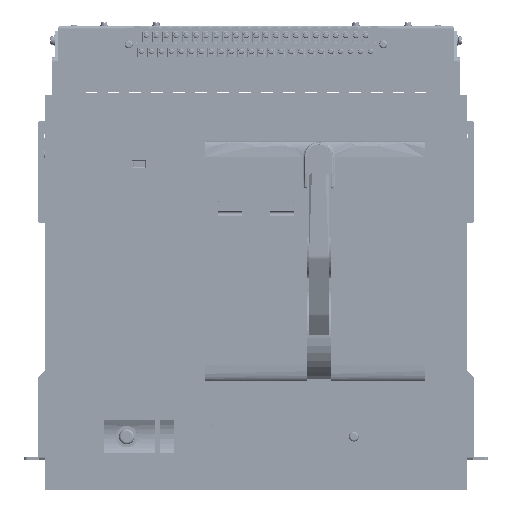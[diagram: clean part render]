
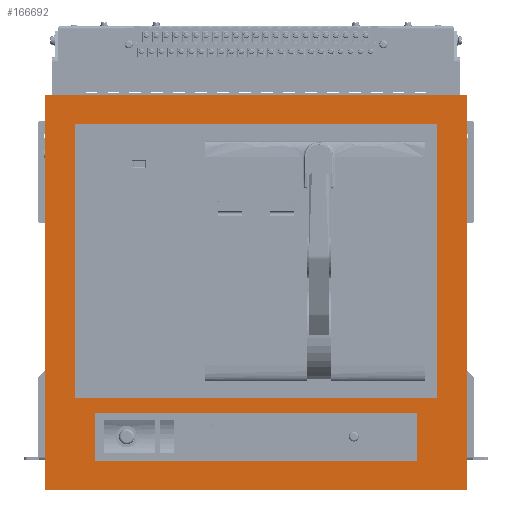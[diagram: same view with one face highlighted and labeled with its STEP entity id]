
A CAD part, top view. The second image highlights one B-rep face of the part: STEP entity #166692.
In plain terms, the highlighted planar face has unit normal (0, 0, 1) as drawn and (0, 1, 0) by its records, which use the part's own axes.
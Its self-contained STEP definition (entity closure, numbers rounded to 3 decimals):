
#15 = CARTESIAN_POINT ( 'NONE',  ( 212., 11., 198. ) ) ;
#3018 = VERTEX_POINT ( 'NONE', #242005 ) ;
#4085 = CARTESIAN_POINT ( 'NONE',  ( -161.5, 11., 121. ) ) ;
#5153 = VECTOR ( 'NONE', #219311, 1000. ) ;
#15291 = DIRECTION ( 'NONE',  ( 0., 0., -1. ) ) ;
#19524 = LINE ( 'NONE', #42744, #159594 ) ;
#20520 = EDGE_LOOP ( 'NONE', ( #106904, #253186, #191448, #289073 ) ) ;
#24944 = CARTESIAN_POINT ( 'NONE',  ( 161.5, 11., 121. ) ) ;
#26710 = CARTESIAN_POINT ( 'NONE',  ( 0., 11., 0. ) ) ;
#36016 = EDGE_CURVE ( 'NONE', #42011, #258225, #266100, .T. ) ;
#38993 = LINE ( 'NONE', #121889, #349923 ) ;
#39376 = DIRECTION ( 'NONE',  ( -1., 0., 0. ) ) ;
#40762 = CARTESIAN_POINT ( 'NONE',  ( -182., 11., -169. ) ) ;
#42011 = VERTEX_POINT ( 'NONE', #326163 ) ;
#42744 = CARTESIAN_POINT ( 'NONE',  ( 212., 11., -198. ) ) ;
#44208 = LINE ( 'NONE', #279194, #204456 ) ;
#49325 = EDGE_CURVE ( 'NONE', #60607, #77808, #125445, .T. ) ;
#51157 = VECTOR ( 'NONE', #228569, 1000. ) ;
#60607 = VERTEX_POINT ( 'NONE', #112462 ) ;
#61390 = EDGE_CURVE ( 'NONE', #244478, #321552, #376898, .T. ) ;
#62718 = ORIENTED_EDGE ( 'NONE', *, *, #142227, .T. ) ;
#64552 = DIRECTION ( 'NONE',  ( -1., 0., 0. ) ) ;
#68345 = CARTESIAN_POINT ( 'NONE',  ( 161.5, 11., 169. ) ) ;
#71278 = DIRECTION ( 'NONE',  ( 0., 0., -1. ) ) ;
#71283 = EDGE_CURVE ( 'NONE', #3018, #160787, #191291, .T. ) ;
#77808 = VERTEX_POINT ( 'NONE', #24944 ) ;
#80705 = AXIS2_PLACEMENT_3D ( 'NONE', #26710, #200085, #80708 ) ;
#80708 = DIRECTION ( 'NONE',  ( 1., 0., 0. ) ) ;
#95358 = CARTESIAN_POINT ( 'NONE',  ( 161.5, 11., 169. ) ) ;
#106904 = ORIENTED_EDGE ( 'NONE', *, *, #250947, .T. ) ;
#109604 = FACE_BOUND ( 'NONE', #20520, .T. ) ;
#109999 = DIRECTION ( 'NONE',  ( -1., 0., 0. ) ) ;
#112462 = CARTESIAN_POINT ( 'NONE',  ( -161.5, 11., 121. ) ) ;
#112496 = VECTOR ( 'NONE', #119714, 1000. ) ;
#119714 = DIRECTION ( 'NONE',  ( 0., 0., 1. ) ) ;
#121889 = CARTESIAN_POINT ( 'NONE',  ( 161.5, 11., 121. ) ) ;
#124199 = LINE ( 'NONE', #212777, #205768 ) ;
#125445 = LINE ( 'NONE', #4085, #287494 ) ;
#135512 = EDGE_CURVE ( 'NONE', #77808, #300716, #38993, .T. ) ;
#142227 = EDGE_CURVE ( 'NONE', #368993, #204263, #19524, .T. ) ;
#145876 = CARTESIAN_POINT ( 'NONE',  ( -212., 11., -198. ) ) ;
#149677 = LINE ( 'NONE', #145876, #299343 ) ;
#159594 = VECTOR ( 'NONE', #109999, 1000. ) ;
#160787 = VERTEX_POINT ( 'NONE', #15 ) ;
#162374 = VECTOR ( 'NONE', #310667, 1000. ) ;
#166692 = ADVANCED_FACE ( 'NONE', ( #321381, #109604, #261664 ), #201984, .T. ) ;
#181375 = LINE ( 'NONE', #269965, #5153 ) ;
#185589 = CARTESIAN_POINT ( 'NONE',  ( -212., 11., 198. ) ) ;
#191291 = LINE ( 'NONE', #185589, #162374 ) ;
#191448 = ORIENTED_EDGE ( 'NONE', *, *, #205952, .T. ) ;
#200085 = DIRECTION ( 'NONE',  ( 0., 1., 0. ) ) ;
#200710 = CARTESIAN_POINT ( 'NONE',  ( 182., 11., -169. ) ) ;
#201984 = PLANE ( 'NONE',  #80705 ) ;
#204263 = VERTEX_POINT ( 'NONE', #285082 ) ;
#204456 = VECTOR ( 'NONE', #15291, 1000. ) ;
#205768 = VECTOR ( 'NONE', #39376, 1000. ) ;
#205952 = EDGE_CURVE ( 'NONE', #321552, #42011, #181375, .T. ) ;
#210081 = ORIENTED_EDGE ( 'NONE', *, *, #135512, .T. ) ;
#212777 = CARTESIAN_POINT ( 'NONE',  ( 182., 11., 106. ) ) ;
#219311 = DIRECTION ( 'NONE',  ( 1., 0., 0. ) ) ;
#228569 = DIRECTION ( 'NONE',  ( 0., 0., -1. ) ) ;
#235258 = VECTOR ( 'NONE', #64552, 1000. ) ;
#238403 = EDGE_LOOP ( 'NONE', ( #240574, #358137, #62718, #373388 ) ) ;
#240574 = ORIENTED_EDGE ( 'NONE', *, *, #71283, .T. ) ;
#242005 = CARTESIAN_POINT ( 'NONE',  ( -212., 11., 198. ) ) ;
#242928 = DIRECTION ( 'NONE',  ( 1., 0., 0. ) ) ;
#244478 = VERTEX_POINT ( 'NONE', #338682 ) ;
#245565 = CARTESIAN_POINT ( 'NONE',  ( 212., 11., -198. ) ) ;
#250549 = EDGE_CURVE ( 'NONE', #327198, #60607, #371665, .T. ) ;
#250947 = EDGE_CURVE ( 'NONE', #258225, #244478, #124199, .T. ) ;
#253186 = ORIENTED_EDGE ( 'NONE', *, *, #61390, .T. ) ;
#256764 = CARTESIAN_POINT ( 'NONE',  ( -161.5, 11., 169. ) ) ;
#258225 = VERTEX_POINT ( 'NONE', #343965 ) ;
#261488 = DIRECTION ( 'NONE',  ( 0., 0., 1. ) ) ;
#261664 = FACE_OUTER_BOUND ( 'NONE', #238403, .T. ) ;
#266100 = LINE ( 'NONE', #200710, #112496 ) ;
#269965 = CARTESIAN_POINT ( 'NONE',  ( -182., 11., -169. ) ) ;
#273414 = ORIENTED_EDGE ( 'NONE', *, *, #310522, .T. ) ;
#279194 = CARTESIAN_POINT ( 'NONE',  ( 212., 11., 198. ) ) ;
#285082 = CARTESIAN_POINT ( 'NONE',  ( -212., 11., -198. ) ) ;
#287494 = VECTOR ( 'NONE', #242928, 1000. ) ;
#289073 = ORIENTED_EDGE ( 'NONE', *, *, #36016, .T. ) ;
#293888 = LINE ( 'NONE', #95358, #235258 ) ;
#295931 = ORIENTED_EDGE ( 'NONE', *, *, #49325, .T. ) ;
#297194 = DIRECTION ( 'NONE',  ( 0., 0., 1. ) ) ;
#299343 = VECTOR ( 'NONE', #261488, 1000. ) ;
#300716 = VERTEX_POINT ( 'NONE', #68345 ) ;
#310339 = EDGE_CURVE ( 'NONE', #160787, #368993, #44208, .T. ) ;
#310522 = EDGE_CURVE ( 'NONE', #300716, #327198, #293888, .T. ) ;
#310667 = DIRECTION ( 'NONE',  ( 1., 0., 0. ) ) ;
#313591 = ORIENTED_EDGE ( 'NONE', *, *, #250549, .T. ) ;
#321381 = FACE_BOUND ( 'NONE', #335810, .T. ) ;
#321552 = VERTEX_POINT ( 'NONE', #40762 ) ;
#322827 = CARTESIAN_POINT ( 'NONE',  ( -182., 11., 106. ) ) ;
#326163 = CARTESIAN_POINT ( 'NONE',  ( 182., 11., -169. ) ) ;
#327198 = VERTEX_POINT ( 'NONE', #256764 ) ;
#335810 = EDGE_LOOP ( 'NONE', ( #273414, #313591, #295931, #210081 ) ) ;
#337085 = CARTESIAN_POINT ( 'NONE',  ( -161.5, 11., 169. ) ) ;
#338682 = CARTESIAN_POINT ( 'NONE',  ( -182., 11., 106. ) ) ;
#343965 = CARTESIAN_POINT ( 'NONE',  ( 182., 11., 106. ) ) ;
#349923 = VECTOR ( 'NONE', #297194, 1000. ) ;
#357088 = EDGE_CURVE ( 'NONE', #204263, #3018, #149677, .T. ) ;
#358137 = ORIENTED_EDGE ( 'NONE', *, *, #310339, .T. ) ;
#368993 = VERTEX_POINT ( 'NONE', #245565 ) ;
#371665 = LINE ( 'NONE', #337085, #377931 ) ;
#373388 = ORIENTED_EDGE ( 'NONE', *, *, #357088, .T. ) ;
#376898 = LINE ( 'NONE', #322827, #51157 ) ;
#377931 = VECTOR ( 'NONE', #71278, 1000. ) ;
